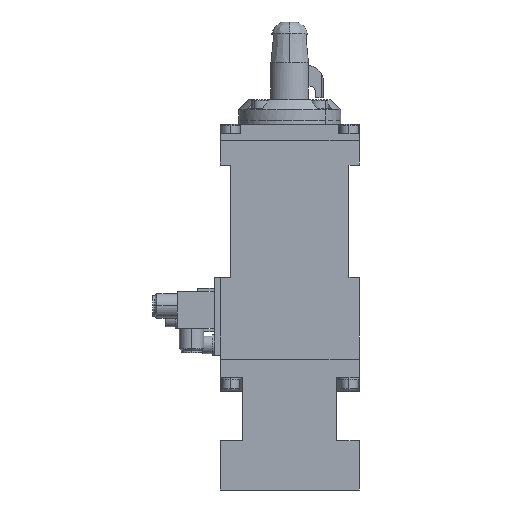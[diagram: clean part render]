
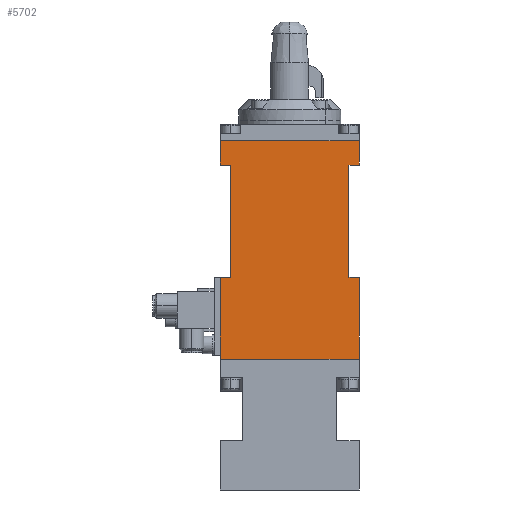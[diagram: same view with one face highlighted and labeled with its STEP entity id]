
A CAD part, front view. The second image highlights one B-rep face of the part: STEP entity #5702.
In plain terms, the highlighted planar face has unit normal (0, -1, 0).
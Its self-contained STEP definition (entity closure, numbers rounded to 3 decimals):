
#5305=CARTESIAN_POINT('POINT216',(-29.,-25.,-87.));
#5306=VERTEX_POINT('VERTEX216',#5305);
#5321=CARTESIAN_POINT('POINT218',(-34.,-25.,-87.));
#5322=VERTEX_POINT('VERTEX218',#5321);
#5329=CARTESIAN_POINT('POS392',(-29.,-25.,-87.));
#5330=DIRECTION('DIR659',(-1.,0.,0.));
#5331=VECTOR('VEC125',#5330,1.);
#5332=LINE('STRAIGHT125',#5329,#5331);
#5333=EDGE_CURVE('EDGE328',#5306,#5322,#5332,.T.);
#5343=CARTESIAN_POINT('POINT219',(-29.,-25.,-32.));
#5344=VERTEX_POINT('VERTEX219',#5343);
#5345=CARTESIAN_POINT('POS394',(-29.,-25.,-32.));
#5346=DIRECTION('DIR662',(0.,0.,-1.));
#5347=VECTOR('VEC126',#5346,1.);
#5348=LINE('STRAIGHT126',#5345,#5347);
#5349=EDGE_CURVE('EDGE329',#5344,#5306,#5348,.T.);
#5375=CARTESIAN_POINT('POINT221',(-34.,-25.,-32.));
#5376=VERTEX_POINT('VERTEX221',#5375);
#5377=CARTESIAN_POINT('POS398',(-29.,-25.,-32.));
#5378=DIRECTION('DIR667',(-1.,0.,0.));
#5379=VECTOR('VEC129',#5378,1.);
#5380=LINE('STRAIGHT129',#5377,#5379);
#5381=EDGE_CURVE('EDGE332',#5344,#5376,#5380,.T.);
#5405=CARTESIAN_POINT('POINT223',(-34.,-25.,-20.));
#5406=VERTEX_POINT('VERTEX223',#5405);
#5407=CARTESIAN_POINT('POS402',(-34.,-25.,-32.));
#5408=DIRECTION('DIR672',(0.,0.,1.));
#5409=VECTOR('VEC132',#5408,1.);
#5410=LINE('STRAIGHT132',#5407,#5409);
#5411=EDGE_CURVE('EDGE335',#5376,#5406,#5410,.T.);
#5436=CARTESIAN_POINT('POINT225',(29.,-25.,-87.));
#5437=VERTEX_POINT('VERTEX225',#5436);
#5438=CARTESIAN_POINT('POINT226',(29.,-25.,-32.));
#5439=VERTEX_POINT('VERTEX226',#5438);
#5440=CARTESIAN_POINT('POS406',(29.,-25.,-87.));
#5441=DIRECTION('DIR677',(0.,0.,1.));
#5442=VECTOR('VEC135',#5441,1.);
#5443=LINE('STRAIGHT135',#5440,#5442);
#5444=EDGE_CURVE('EDGE338',#5437,#5439,#5443,.T.);
#5477=CARTESIAN_POINT('POINT229',(34.,-25.,-87.));
#5478=VERTEX_POINT('VERTEX229',#5477);
#5479=CARTESIAN_POINT('POS411',(34.,-25.,-87.));
#5480=DIRECTION('DIR683',(-1.,0.,0.));
#5481=VECTOR('VEC139',#5480,1.);
#5482=LINE('STRAIGHT139',#5479,#5481);
#5483=EDGE_CURVE('EDGE342',#5478,#5437,#5482,.T.);
#5507=CARTESIAN_POINT('POINT231',(34.,-25.,-127.));
#5508=VERTEX_POINT('VERTEX231',#5507);
#5524=CARTESIAN_POINT('POS417',(34.,-25.,-127.));
#5525=DIRECTION('DIR690',(0.,0.,1.));
#5526=VECTOR('VEC144',#5525,1.);
#5527=LINE('STRAIGHT144',#5524,#5526);
#5528=EDGE_CURVE('EDGE347',#5508,#5478,#5527,.T.);
#5547=CARTESIAN_POINT('POINT234',(-34.,-25.,-127.));
#5548=VERTEX_POINT('VERTEX234',#5547);
#5549=CARTESIAN_POINT('POS420',(-34.,-25.,-127.));
#5550=DIRECTION('DIR694',(1.,0.,0.));
#5551=VECTOR('VEC146',#5550,1.);
#5552=LINE('STRAIGHT146',#5549,#5551);
#5553=EDGE_CURVE('EDGE349',#5548,#5508,#5552,.T.);
#5569=CARTESIAN_POINT('POS423',(-34.,-25.,-87.));
#5570=DIRECTION('DIR698',(0.,0.,-1.));
#5571=VECTOR('VEC148',#5570,1.);
#5572=LINE('STRAIGHT148',#5569,#5571);
#5573=EDGE_CURVE('EDGE351',#5322,#5548,#5572,.T.);
#5592=CARTESIAN_POINT('POINT235',(34.,-25.,-20.));
#5593=VERTEX_POINT('VERTEX235',#5592);
#5594=CARTESIAN_POINT('POS426',(34.,-25.,-20.));
#5595=DIRECTION('DIR702',(-1.,0.,0.));
#5596=VECTOR('VEC150',#5595,1.);
#5597=LINE('STRAIGHT150',#5594,#5596);
#5598=EDGE_CURVE('EDGE353',#5593,#5406,#5597,.T.);
#5656=CARTESIAN_POINT('POINT238',(34.,-25.,-32.));
#5657=VERTEX_POINT('VERTEX238',#5656);
#5664=CARTESIAN_POINT('POS434',(34.,-25.,-32.));
#5665=DIRECTION('DIR712',(-1.,0.,0.));
#5666=VECTOR('VEC156',#5665,1.);
#5667=LINE('STRAIGHT156',#5664,#5666);
#5668=EDGE_CURVE('EDGE359',#5657,#5439,#5667,.T.);
#5678=ORIENTED_EDGE('COEDGE705',*,*,#5573,.T.);
#5679=ORIENTED_EDGE('COEDGE706',*,*,#5553,.T.);
#5680=ORIENTED_EDGE('COEDGE707',*,*,#5528,.T.);
#5681=ORIENTED_EDGE('COEDGE708',*,*,#5483,.T.);
#5682=ORIENTED_EDGE('COEDGE709',*,*,#5444,.T.);
#5683=ORIENTED_EDGE('COEDGE710',*,*,#5668,.F.);
#5684=CARTESIAN_POINT('POS436',(34.,-25.,-20.));
#5685=DIRECTION('DIR715',(0.,0.,-1.));
#5686=VECTOR('VEC157',#5685,1.);
#5687=LINE('STRAIGHT157',#5684,#5686);
#5688=EDGE_CURVE('EDGE360',#5593,#5657,#5687,.T.);
#5689=ORIENTED_EDGE('COEDGE711',*,*,#5688,.F.);
#5690=ORIENTED_EDGE('COEDGE712',*,*,#5598,.T.);
#5691=ORIENTED_EDGE('COEDGE713',*,*,#5411,.F.);
#5692=ORIENTED_EDGE('COEDGE714',*,*,#5381,.F.);
#5693=ORIENTED_EDGE('COEDGE715',*,*,#5349,.T.);
#5694=ORIENTED_EDGE('COEDGE716',*,*,#5333,.T.);
#5695=EDGE_LOOP('NONE',(#5678,#5679,#5680,#5681,#5682,#5683,#5689,#5690,
   #5691,#5692,#5693,#5694));
#5696=FACE_BOUND('LOOP1',#5695,.T.);
#5697=CARTESIAN_POINT('POS437',(-34.,-25.,-87.));
#5698=DIRECTION('DIR716',(0.,-1.,0.));
#5699=DIRECTION('DIR717',(1.,0.,0.));
#5700=AXIS2_PLACEMENT_3D('AXIS280',#5697,#5698,#5699);
#5701=PLANE('PLANE66',#5700);
#5702=ADVANCED_FACE('FACE143',(#5696),#5701,.T.);
